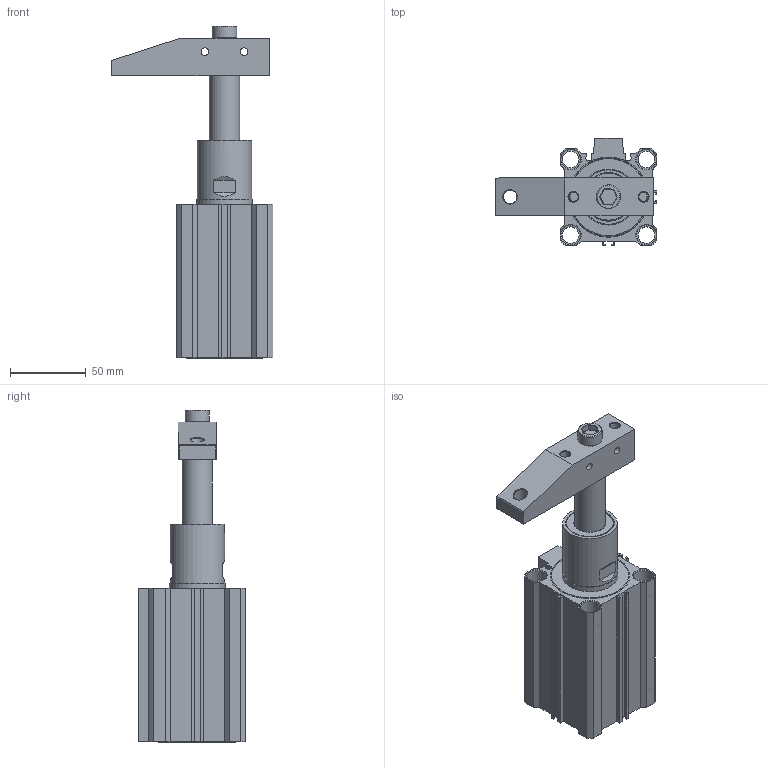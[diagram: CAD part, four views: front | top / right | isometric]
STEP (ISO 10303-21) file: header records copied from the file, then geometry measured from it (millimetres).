
FILE_DESCRIPTION(/* description */ ('STEP AP203'),/* implementation_level */ '2;1');
FILE_NAME(/* name */ 'E:\SERWER_ZAPAS\MODELE brakujace\PNEUMATIC\PB(STEP)\pbs-50转角缸\PBS-50R_OTWARTY.stp',/* time_stamp */ '2019-02-01T15:59:45+01:00',/* author */ ('Admin'),/* organization */ ('Microsoft'),/* preprocessor_version */ 'ST-DEVELOPER v17.2',/* originating_system */ 'Autodesk Inventor 2019',/* authorisation */ '');
FILE_SCHEMA (('AUTOMOTIVE_DESIGN { 1 0 10303 214 3 1 1 }'));
Length unit declared in the file: millimetre
Products named in the file (10): PBS-50R_OTWARTY; µæÆ¬_Ä¬ÈÏ; ºó¸Ç_Ä¬ÈÏ; s¸Ë_Ä¬ÈÏ; Ñ¹±Û_Ä¬ÈÏ; ¶¼_Ä¬ÈÏ; ±¾Ìå_Ä¬ÈÏ; »îÈû¸Ë_Ä¬ÈÏ; M12ÂÝ_Ä¬ÈÏ; Ç°¸Ç_Ä¬ÈÏ
Assembly tree (10 placements, depth 2):
  PBS-50R_OTWARTY
    µæÆ¬_Ä¬ÈÏ
    ¶¼_Ä¬ÈÏ  x2
    ºó¸Ç_Ä¬ÈÏ
    s¸Ë_Ä¬ÈÏ
    Ñ¹±Û_Ä¬ÈÏ
    ±¾Ìå_Ä¬ÈÏ
    »îÈû¸Ë_Ä¬ÈÏ
    M12ÂÝ_Ä¬ÈÏ
    Ç°¸Ç_Ä¬ÈÏ
Bounding box: 107 x 71 x 219.5 mm (x, y, z)
Volume: 323431.2 mm3; surface area: 133135.2 mm2
Topology: 10 solids, 10 shells, 416 faces, 1173 edges, 805 vertices
Faces by surface type: plane 162, cylinder 113, cone 106, torus 25, bspline 8, sphere 2
Full cylindrical faces by diameter (mm): 2 x3, 4 x3, 5 x2, 5.5 x2, 6 x2, 6.2 x2, 8 x4, 9 x1, 10.5 x1, 10.596 x10, 11 x4, 12 x9, 12.5 x1, 13 x8, 14 x4, 16 x2, 18.6 x1, 19 x1, 20 x3, 20.5 x1, 22 x1, 24.3 x1, 28 x2, 32 x2, 36 x1, 36.938 x1, 46.5 x2, 50 x6, 51.4 x6, 52.6 x1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
Entity records: 16717 total; most frequent: CARTESIAN_POINT 5216, DIRECTION 2464, ORIENTED_EDGE 2304, EDGE_CURVE 1152, AXIS2_PLACEMENT_3D 983, VERTEX_POINT 793, CIRCLE 549, LINE 498
